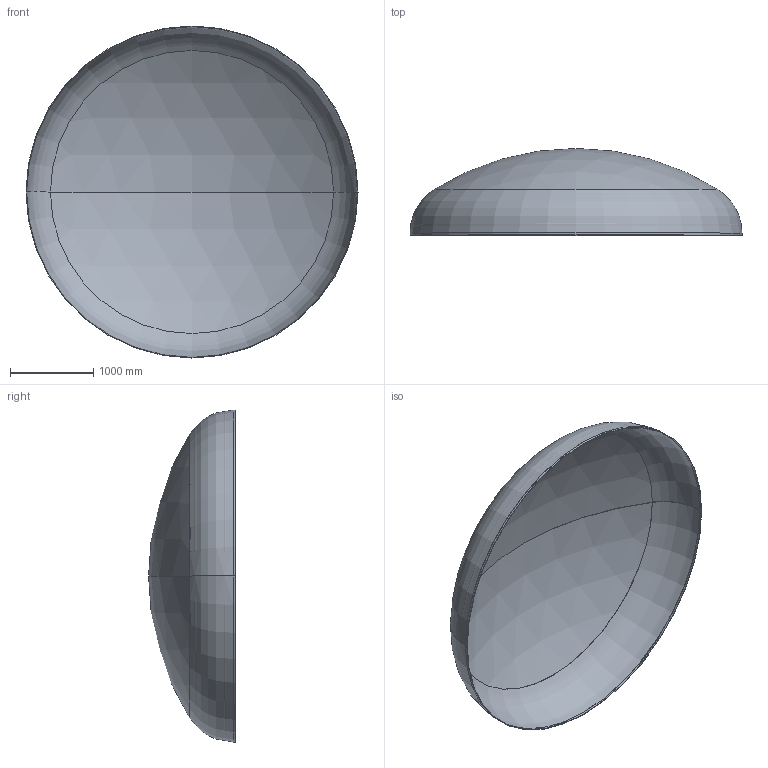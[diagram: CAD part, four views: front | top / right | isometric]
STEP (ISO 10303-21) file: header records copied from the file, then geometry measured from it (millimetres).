
FILE_DESCRIPTION (( 'STEP AP203' ), '1' );
FILE_NAME ('DIN 28013 Korbbogenform_-_Boden DIN 28013 - 4000 x 25 - I - s=7.step', '2016-07-01T21:58:17', ( '' ), ( '' ), 'SwSTEP 2.0', 'SolidWorks 2013', '' );
FILE_SCHEMA (( 'CONFIG_CONTROL_DESIGN' ));
Length unit declared in the file: millimetre
Products named in the file (1): DIN 28013 Korbbogenform_-_Boden DIN 28013 - 4000 x 25 - I - s=7
Bounding box: 4000 x 1044.91 x 4000 mm (x, y, z)
Volume: 123716971.3 mm3; surface area: 35435604.7 mm2
Topology: 1 solids, 1 shells, 13 faces, 24 edges, 14 vertices
Faces by surface type: torus 4, cylinder 4, sphere 4, plane 1
Entity records: 407 total; most frequent: DIRECTION 72, CARTESIAN_POINT 52, ORIENTED_EDGE 48, AXIS2_PLACEMENT_3D 34, EDGE_CURVE 24, CIRCLE 20, EDGE_LOOP 14, VERTEX_POINT 14
